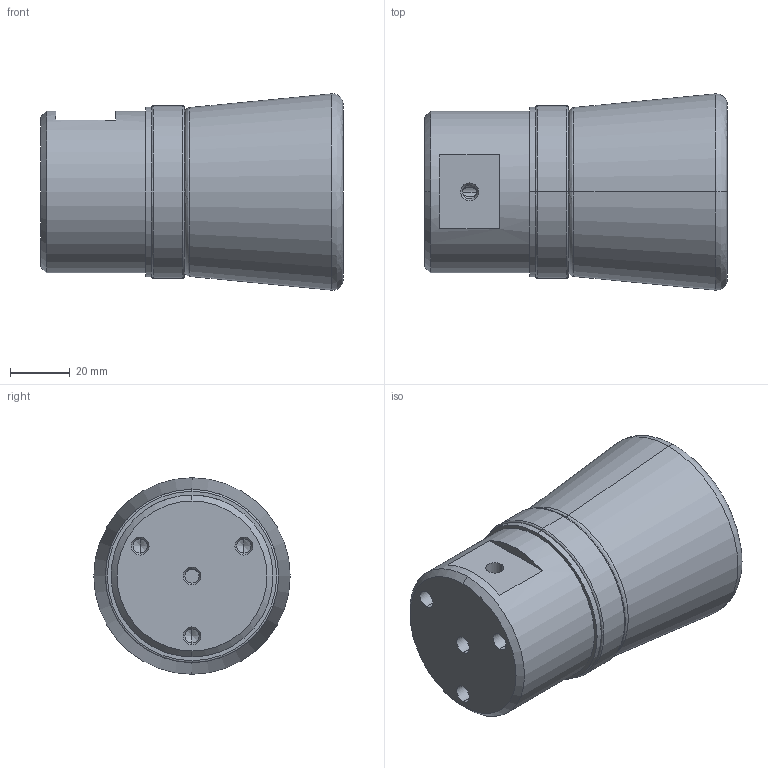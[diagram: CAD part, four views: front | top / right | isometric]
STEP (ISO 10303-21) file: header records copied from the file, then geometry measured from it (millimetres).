
FILE_DESCRIPTION( (''), '2;1');
FILE_NAME ('TGMX25.1684.RBP055TCA_23037.stp','2015-03-30T15:11:38',(''),(''),'spGate 11.3.7','spGate','');
FILE_SCHEMA (('AUTOMOTIVE_DESIGN'));
Length unit declared in the file: millimetre
Bounding box: 101 x 65.47 x 65.49 mm (x, y, z)
Volume: 253583.6 mm3; surface area: 27430.5 mm2
Topology: 1 solids, 1 shells, 69 faces, 146 edges, 81 vertices
Faces by surface type: bspline 32, cylinder 28, plane 9
Entity records: 3336 total; most frequent: CARTESIAN_POINT 867, ORIENTED_EDGE 280, DIRECTION 230, COLOUR_RGB 210, PRESENTATION_STYLE_ASSIGNMENT 210, STYLED_ITEM 210, EDGE_CURVE 140, DRAUGHTING_PRE_DEFINED_CURVE_FONT 140
